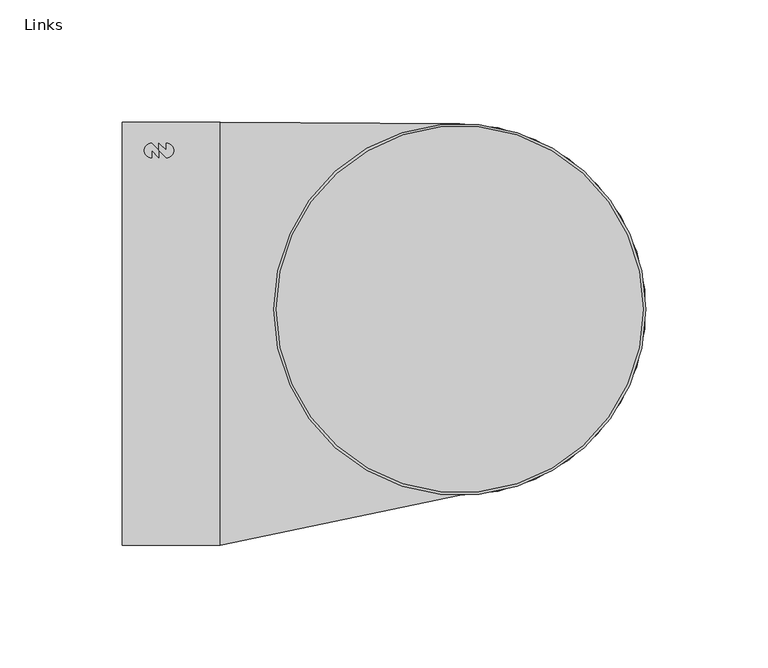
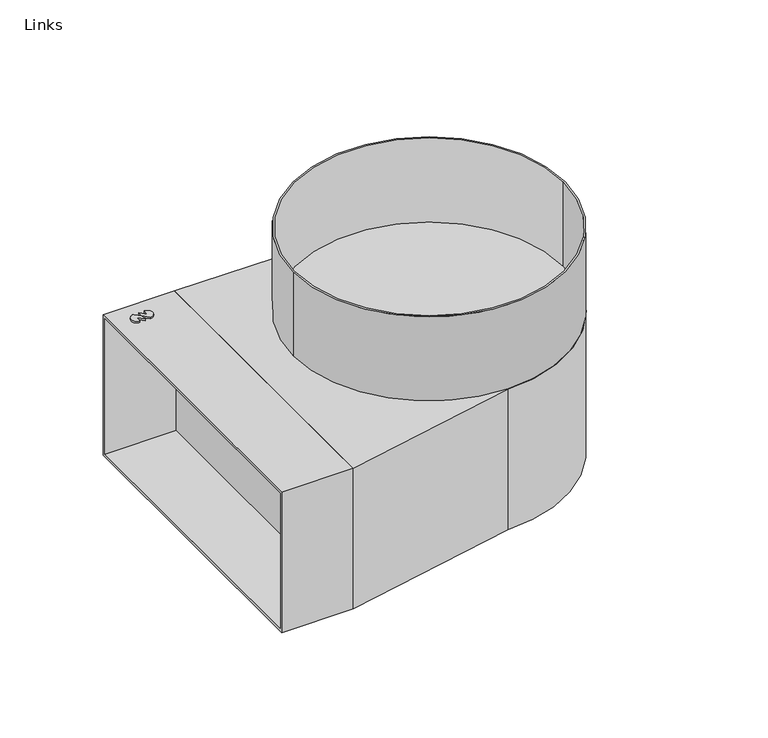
"""IFC4 building model written with IfcOpenShell, lengths in millimetres: duct fitting geometry, NLRS_57_DUF_UN_instortkanaal-rechthoekig-naar-rond-lepe-hoek_LT_velu : Links."""

from ifc_helpers import new_model, si_unit, point, frame, frame_2d, origin, place, context, project, spatial, polyline, circle_curve, trimmed, segment, composite_curve, outline, extrude, source, transform, mapped, element, save


def links_3f430847(model_context):
    return source(origin(), model_context, "Body", "SweptSolid", [
        extrude(outline(composite_curve([segment(trimmed(circle_curve(frame_2d((-22.0, 75.0)), 3.0), [point((-22.0, 78.0))], [point((-22.0, 72.0))], False, "CARTESIAN"), True, "CONTINUOUS"), segment(polyline([(-22.0, 72.0), (-25.0, 75.0), (-25.0, 78.0), (-22.0, 75.0), (-22.0, 78.0)]), True, "CONTINUOUS")], self_intersect=False)), frame((0.0, 0.0, -42.5), z_axis=(0.0, 0.0, 1.0), x_axis=(1.0, 0.0, 0.0)), (0.0, 0.0, 1.0), 1.0),
        extrude(outline(composite_curve([segment(trimmed(circle_curve(frame_2d((-28.0, 75.0)), 3.0), [point((-28.0, 72.0))], [point((-28.0, 78.0))], False, "CARTESIAN"), True, "CONTINUOUS"), segment(polyline([(-28.0, 78.0), (-25.0, 75.0), (-25.0, 72.0), (-28.0, 75.0), (-28.0, 72.0)]), True, "CONTINUOUS")], self_intersect=False)), frame((0.0, 0.0, -42.5), z_axis=(0.0, 0.0, 1.0), x_axis=(1.0, 0.0, 0.0)), (0.0, 0.0, 1.0), 1.0),
        extrude(outline(composite_curve([segment(trimmed(circle_curve(frame_2d((-22.0, 75.0)), 3.0), [point((-22.0, 78.0))], [point((-22.0, 72.0))], False, "CARTESIAN"), True, "CONTINUOUS"), segment(polyline([(-22.0, 72.0), (-25.0, 75.0), (-25.0, 78.0), (-22.0, 75.0), (-22.0, 78.0)]), True, "CONTINUOUS")], self_intersect=False)), frame((0.0, 0.0, 41.5), z_axis=(0.0, 0.0, 1.0), x_axis=(1.0, 0.0, 0.0)), (0.0, 0.0, 1.0), 1.0),
        extrude(outline(composite_curve([segment(trimmed(circle_curve(frame_2d((-28.0, 75.0)), 3.0), [point((-28.0, 72.0))], [point((-28.0, 78.0))], False, "CARTESIAN"), True, "CONTINUOUS"), segment(polyline([(-28.0, 78.0), (-25.0, 75.0), (-25.0, 72.0), (-28.0, 75.0), (-28.0, 72.0)]), True, "CONTINUOUS")], self_intersect=False)), frame((0.0, 0.0, 41.5), z_axis=(0.0, 0.0, 1.0), x_axis=(1.0, 0.0, 0.0)), (0.0, 0.0, 1.0), 1.0),
        extrude(outline(composite_curve([segment(polyline([(0.0, -86.5), (0.0, 86.5), (98.0, 86.0)]), True, "CONTINUOUS"), segment(trimmed(circle_curve(frame_2d((98.0, 10.0)), 76.0), [point((98.0, 86.0))], [point((98.0, -66.0))], False, "CARTESIAN"), True, "CONTINUOUS"), segment(polyline([(98.0, -66.0), (0.0, -86.5)]), True, "CONTINUOUS")], self_intersect=False)), frame((0.0, 0.0, -41.5), z_axis=(0.0, 0.0, 1.0), x_axis=(1.0, 0.0, 0.0)), (0.0, 0.0, 1.0), 83.0),
        extrude(outline(composite_curve([segment(trimmed(circle_curve(frame_2d((98.0, 10.0)), 76.0), [point((22.0, 10.0))], [point((174.0, 10.0))], False, "CARTESIAN"), True, "CONTINUOUS"), segment(trimmed(circle_curve(frame_2d((98.0, 10.0)), 76.0), [point((174.0, 10.0))], [point((22.0, 10.0))], False, "CARTESIAN"), True, "CONTINUOUS")], self_intersect=False), holes=[composite_curve([segment(trimmed(circle_curve(frame_2d((98.0, 10.0)), 75.0), [point((23.0, 10.0))], [point((173.0, 10.0))], True, "CARTESIAN"), True, "CONTINUOUS"), segment(trimmed(circle_curve(frame_2d((98.0, 10.0)), 75.0), [point((173.0, 10.0))], [point((23.0, 10.0))], True, "CARTESIAN"), True, "CONTINUOUS")], self_intersect=False)]), frame((0.0, 0.0, 41.5), z_axis=(0.0, 0.0, 1.0), x_axis=(1.0, 0.0, 0.0)), (0.0, 0.0, 1.0), 50.0),
        extrude(outline(polyline([(-86.5, 41.5), (86.5, 41.5), (86.5, -41.5), (-86.5, -41.5), (-86.5, 41.5)]), holes=[polyline([(-85.0, 40.0), (-85.0, -40.0), (85.0, -40.0), (85.0, 40.0), (-85.0, 40.0)])]), frame((-40.0, 0.0, 0.0), z_axis=(1.0, 0.0, 0.0), x_axis=(0.0, 1.0, 0.0)), (0.0, 0.0, 1.0), 40.0),
    ])


if __name__ == "__main__":
    model = new_model("IFC4")
    model_context = context("Model", 3, world=origin())
    ifc_project = project(units=[si_unit("LENGTHUNIT", "METRE", prefix="MILLI")], contexts=[model_context])
    site = spatial("IfcSite", under=ifc_project)
    building = spatial("IfcBuilding", under=site)
    placement = place(None, origin())
    links_shape = links_3f430847(model_context)
    element("IfcDuctFitting", 1, ObjectType="NLRS_57_DUF_UN_instortkanaal-rechthoekig-naar-rond-lepe-hoek_LT_velu : Links", at=placement, inside=building, context=model_context, shape_type="MappedRepresentation", body=[
        mapped(links_shape, transform((0.0, 0.0, 0.0), x_axis=(1.0, 0.0, 0.0), y_axis=(0.0, 1.0, 0.0), z_axis=(0.0, 0.0, 1.0))),
    ])
    save(model, "model.ifc")
